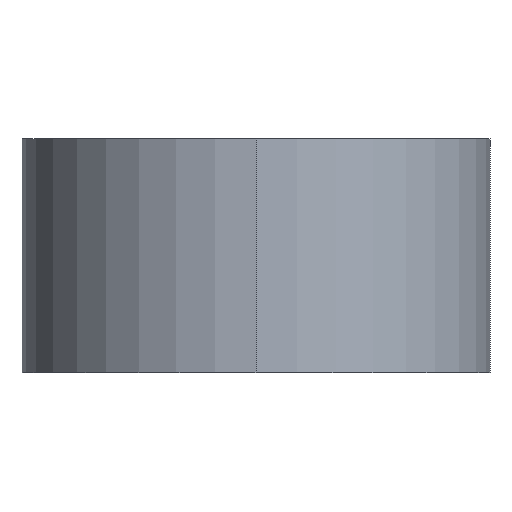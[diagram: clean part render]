
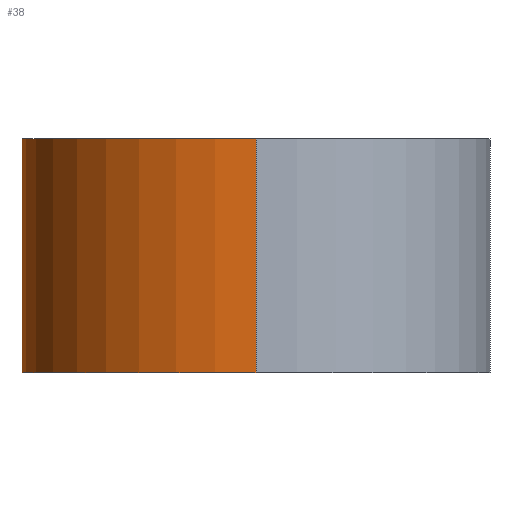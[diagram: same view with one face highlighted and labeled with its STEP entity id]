
A CAD part, front view. The second image highlights one B-rep face of the part: STEP entity #38.
In plain terms, the highlighted cylindrical face has radius 20 mm (diameter 40 mm), a partial arc.
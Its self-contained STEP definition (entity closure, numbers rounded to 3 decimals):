
#9 = DIRECTION ( 'NONE',  ( 0., 0., -1. ) ) ;
#32 = VECTOR ( 'NONE', #1198, 1000. ) ;
#38 = ADVANCED_FACE ( 'NONE', ( #121 ), #547, .T. ) ;
#121 = FACE_OUTER_BOUND ( 'NONE', #474, .T. ) ;
#137 = DIRECTION ( 'NONE',  ( -1., 0., 0. ) ) ;
#175 = DIRECTION ( 'NONE',  ( -1., 0., 0. ) ) ;
#182 = CARTESIAN_POINT ( 'NONE',  ( 0., 20., 0. ) ) ;
#201 = CARTESIAN_POINT ( 'NONE',  ( 20., 0., 20. ) ) ;
#205 = CARTESIAN_POINT ( 'NONE',  ( 20., 20., 20. ) ) ;
#253 = EDGE_CURVE ( 'NONE', #368, #628, #1026, .T. ) ;
#254 = AXIS2_PLACEMENT_3D ( 'NONE', #344, #371, #137 ) ;
#304 = VERTEX_POINT ( 'NONE', #527 ) ;
#344 = CARTESIAN_POINT ( 'NONE',  ( 20., 20., 20. ) ) ;
#368 = VERTEX_POINT ( 'NONE', #182 ) ;
#371 = DIRECTION ( 'NONE',  ( 0., 0., -1. ) ) ;
#392 = CARTESIAN_POINT ( 'NONE',  ( 0., 20., 20. ) ) ;
#450 = EDGE_CURVE ( 'NONE', #981, #304, #641, .T. ) ;
#474 = EDGE_LOOP ( 'NONE', ( #1024, #985, #724, #630 ) ) ;
#527 = CARTESIAN_POINT ( 'NONE',  ( 20., 0., 0. ) ) ;
#547 = CYLINDRICAL_SURFACE ( 'NONE', #254, 20. ) ;
#628 = VERTEX_POINT ( 'NONE', #392 ) ;
#630 = ORIENTED_EDGE ( 'NONE', *, *, #867, .F. ) ;
#633 = EDGE_CURVE ( 'NONE', #628, #981, #687, .T. ) ;
#641 = LINE ( 'NONE', #1036, #916 ) ;
#687 = CIRCLE ( 'NONE', #1125, 20. ) ;
#718 = DIRECTION ( 'NONE',  ( 0., 0., -1. ) ) ;
#724 = ORIENTED_EDGE ( 'NONE', *, *, #253, .F. ) ;
#850 = DIRECTION ( 'NONE',  ( 0., 0., 1. ) ) ;
#867 = EDGE_CURVE ( 'NONE', #304, #368, #1155, .T. ) ;
#916 = VECTOR ( 'NONE', #9, 1000. ) ;
#941 = AXIS2_PLACEMENT_3D ( 'NONE', #1122, #718, #175 ) ;
#958 = DIRECTION ( 'NONE',  ( -1., 0., 0. ) ) ;
#981 = VERTEX_POINT ( 'NONE', #201 ) ;
#985 = ORIENTED_EDGE ( 'NONE', *, *, #633, .F. ) ;
#1024 = ORIENTED_EDGE ( 'NONE', *, *, #450, .F. ) ;
#1026 = LINE ( 'NONE', #1109, #32 ) ;
#1036 = CARTESIAN_POINT ( 'NONE',  ( 20., 0., 20. ) ) ;
#1109 = CARTESIAN_POINT ( 'NONE',  ( 0., 20., 20. ) ) ;
#1122 = CARTESIAN_POINT ( 'NONE',  ( 20., 20., 0. ) ) ;
#1125 = AXIS2_PLACEMENT_3D ( 'NONE', #205, #850, #958 ) ;
#1155 = CIRCLE ( 'NONE', #941, 20. ) ;
#1198 = DIRECTION ( 'NONE',  ( 0., 0., 1. ) ) ;
